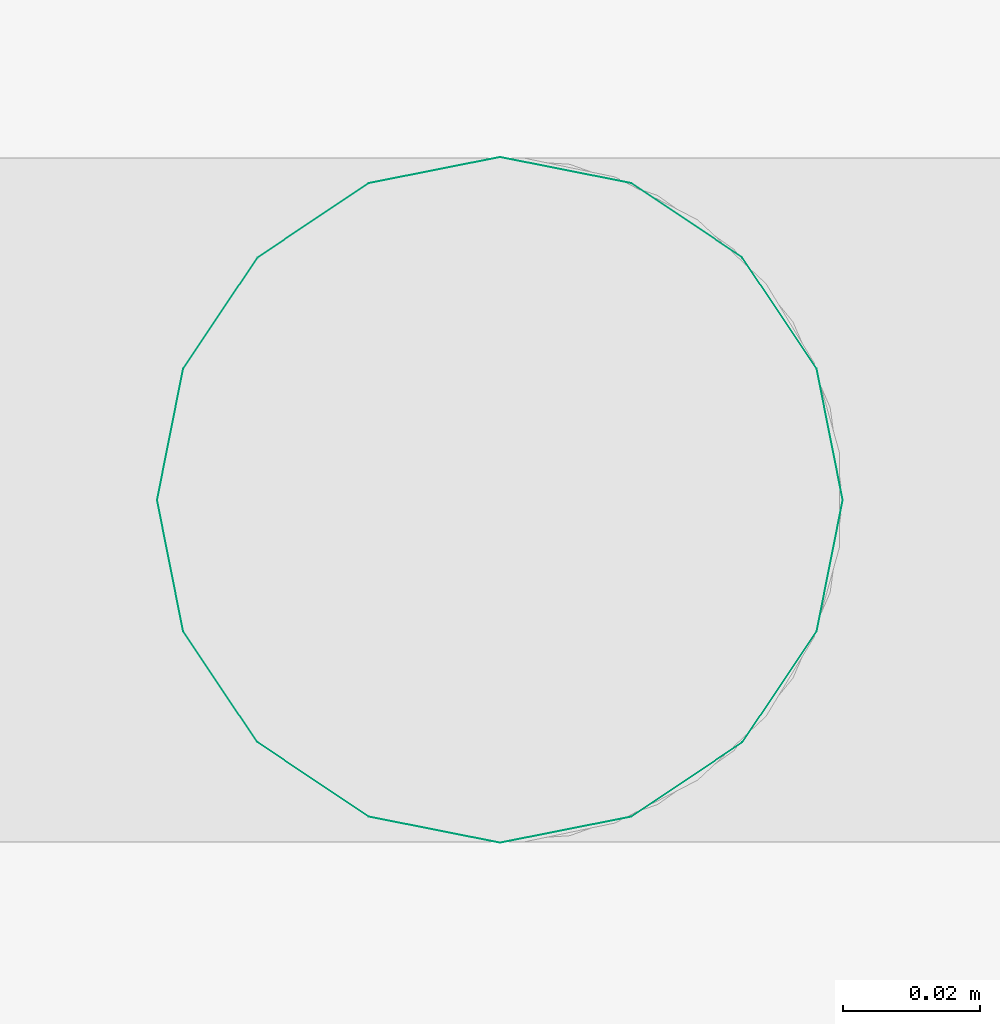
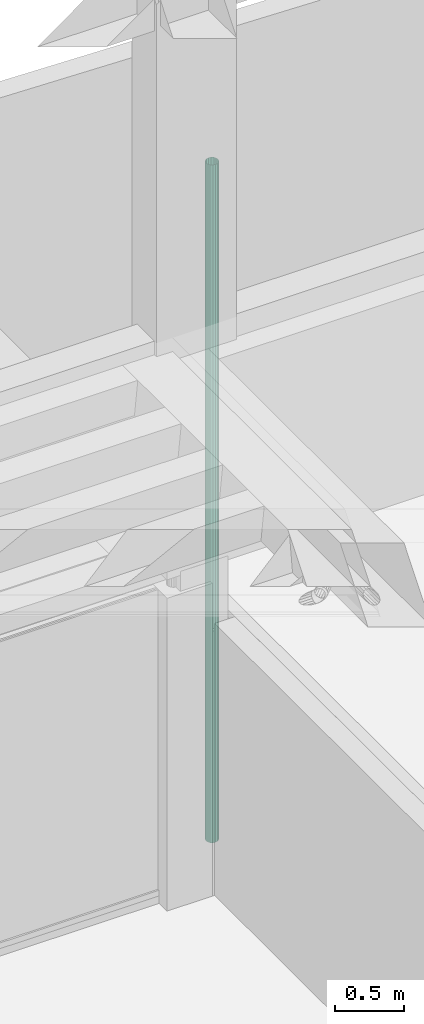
# One storey, part 57 of 108: 1 flow segment.
"""IFC2X3 building model written with IfcOpenShell, lengths in metres."""

from ifc_helpers import new_model, entity, si_unit, converted_unit, derived_unit, money_unit, direction, frame, origin_with_axes, place, context, subcontext, project, spatial, faceted_brep, material, type_object, element, save


model = new_model("IFC2X3")

# Units and contexts
model_context = context("Model", 3, precision=1e-05, world=origin_with_axes(), true_north=direction((0.0, 1.0)))
body_context = subcontext(model_context, "Body", "Model", "MODEL_VIEW", scale=1.0)
ifc_project = project(units=[si_unit("LENGTHUNIT", "METRE"), si_unit("AREAUNIT", "SQUARE_METRE"), si_unit("VOLUMEUNIT", "CUBIC_METRE"), si_unit("ABSORBEDDOSEUNIT", "GRAY"), si_unit("AMOUNTOFSUBSTANCEUNIT", "MOLE"), si_unit("DOSEEQUIVALENTUNIT", "SIEVERT"), si_unit("ELECTRICCAPACITANCEUNIT", "FARAD"), si_unit("ELECTRICCHARGEUNIT", "COULOMB"), si_unit("ELECTRICCONDUCTANCEUNIT", "SIEMENS"), si_unit("ELECTRICCURRENTUNIT", "AMPERE"), si_unit("ELECTRICRESISTANCEUNIT", "OHM"), si_unit("ELECTRICVOLTAGEUNIT", "VOLT"), si_unit("ENERGYUNIT", "JOULE"), si_unit("FORCEUNIT", "NEWTON"), si_unit("FREQUENCYUNIT", "HERTZ"), si_unit("ILLUMINANCEUNIT", "LUX"), si_unit("INDUCTANCEUNIT", "HENRY"), si_unit("LUMINOUSFLUXUNIT", "LUMEN"), si_unit("LUMINOUSINTENSITYUNIT", "CANDELA"), si_unit("MAGNETICFLUXDENSITYUNIT", "TESLA"), si_unit("MAGNETICFLUXUNIT", "WEBER"), si_unit("MASSUNIT", "GRAM"), converted_unit("PLANEANGLEUNIT", "degree", entity("IfcReal", 0.0174532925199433), si_unit("PLANEANGLEUNIT", "RADIAN"), dimensions=[0, 0, 0, 0, 0, 0, 0]), si_unit("POWERUNIT", "WATT"), si_unit("PRESSUREUNIT", "PASCAL"), si_unit("RADIOACTIVITYUNIT", "BECQUEREL"), si_unit("SOLIDANGLEUNIT", "STERADIAN"), si_unit("THERMODYNAMICTEMPERATUREUNIT", "KELVIN"), si_unit("TIMEUNIT", "SECOND"), derived_unit("ACCELERATIONUNIT", [(si_unit("LENGTHUNIT", "METRE"), 1), (si_unit("TIMEUNIT", "SECOND"), -2)]), derived_unit("ANGULARVELOCITYUNIT", [(converted_unit("PLANEANGLEUNIT", "degree", entity("IfcReal", 0.0174532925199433), si_unit("PLANEANGLEUNIT", "RADIAN"), dimensions=[0, 0, 0, 0, 0, 0, 0]), 1), (si_unit("TIMEUNIT", "SECOND"), -1)]), derived_unit("CURVATUREUNIT", [(converted_unit("PLANEANGLEUNIT", "degree", entity("IfcReal", 0.0174532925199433), si_unit("PLANEANGLEUNIT", "RADIAN"), dimensions=[0, 0, 0, 0, 0, 0, 0]), 1), (si_unit("LENGTHUNIT", "METRE"), -1)]), derived_unit("DYNAMICVISCOSITYUNIT", [(si_unit("PRESSUREUNIT", "PASCAL"), 1), (si_unit("TIMEUNIT", "SECOND"), 1)]), derived_unit("HEATFLUXDENSITYUNIT", [(si_unit("POWERUNIT", "WATT"), 1), (si_unit("LENGTHUNIT", "METRE"), -2)]), derived_unit("HEATINGVALUEUNIT", [(si_unit("ENERGYUNIT", "JOULE"), 1), (si_unit("MASSUNIT", "GRAM"), -1)]), derived_unit("INTEGERCOUNTRATEUNIT", [(si_unit("TIMEUNIT", "SECOND"), -1)]), derived_unit("IONCONCENTRATIONUNIT", [(si_unit("MASSUNIT", "GRAM"), 1), (si_unit("VOLUMEUNIT", "CUBIC_METRE"), -1)]), derived_unit("ISOTHERMALMOISTURECAPACITYUNIT", [(si_unit("VOLUMEUNIT", "CUBIC_METRE"), 1), (si_unit("MASSUNIT", "GRAM"), -1)]), derived_unit("KINEMATICVISCOSITYUNIT", [(si_unit("AREAUNIT", "SQUARE_METRE"), 1), (si_unit("TIMEUNIT", "SECOND"), -1)]), derived_unit("LINEARFORCEUNIT", [(si_unit("FORCEUNIT", "NEWTON"), 1), (si_unit("LENGTHUNIT", "METRE"), -1)]), derived_unit("LINEARMOMENTUNIT", [(si_unit("FORCEUNIT", "NEWTON"), 1), (si_unit("LENGTHUNIT", "METRE"), -1)]), derived_unit("LINEARSTIFFNESSUNIT", [(si_unit("FORCEUNIT", "NEWTON"), 1), (si_unit("LENGTHUNIT", "METRE"), -1)]), derived_unit("LINEARVELOCITYUNIT", [(si_unit("LENGTHUNIT", "METRE"), 1), (si_unit("TIMEUNIT", "SECOND"), -1)]), derived_unit("LUMINOUSINTENSITYDISTRIBUTIONUNIT", [(si_unit("LUMINOUSINTENSITYUNIT", "CANDELA"), 1), (si_unit("LUMINOUSFLUXUNIT", "LUMEN"), -1)]), derived_unit("MASSDENSITYUNIT", [(si_unit("MASSUNIT", "GRAM"), 1), (si_unit("VOLUMEUNIT", "CUBIC_METRE"), -1)]), derived_unit("MASSFLOWRATEUNIT", [(si_unit("MASSUNIT", "GRAM"), 1), (si_unit("TIMEUNIT", "SECOND"), -1)]), derived_unit("MASSPERLENGTHUNIT", [(si_unit("MASSUNIT", "GRAM"), 1), (si_unit("LENGTHUNIT", "METRE"), -1)]), derived_unit("MODULUSOFELASTICITYUNIT", [(si_unit("FORCEUNIT", "NEWTON"), 1), (si_unit("AREAUNIT", "SQUARE_METRE"), -1)]), derived_unit("MODULUSOFLINEARSUBGRADEREACTIONUNIT", [(si_unit("FORCEUNIT", "NEWTON"), 1), (si_unit("LENGTHUNIT", "METRE"), -2)]), derived_unit("MODULUSOFROTATIONALSUBGRADEREACTIONUNIT", [(si_unit("FORCEUNIT", "NEWTON"), 1), (si_unit("LENGTHUNIT", "METRE"), 1)]), derived_unit("MODULUSOFSUBGRADEREACTIONUNIT", [(si_unit("FORCEUNIT", "NEWTON"), 1), (si_unit("VOLUMEUNIT", "CUBIC_METRE"), -1)]), derived_unit("MOISTUREDIFFUSIVITYUNIT", [(si_unit("VOLUMEUNIT", "CUBIC_METRE"), 1), (si_unit("TIMEUNIT", "SECOND"), -1)]), derived_unit("MOLECULARWEIGHTUNIT", [(si_unit("MASSUNIT", "GRAM"), 1), (si_unit("AMOUNTOFSUBSTANCEUNIT", "MOLE"), -1)]), derived_unit("PLANARFORCEUNIT", [(si_unit("FORCEUNIT", "NEWTON"), 1), (si_unit("LENGTHUNIT", "METRE"), -2)]), derived_unit("ROTATIONALFREQUENCYUNIT", [(si_unit("TIMEUNIT", "SECOND"), -1)]), derived_unit("ROTATIONALMASSUNIT", [(si_unit("MASSUNIT", "GRAM"), 1), (si_unit("LENGTHUNIT", "METRE"), 2)]), derived_unit("ROTATIONALSTIFFNESSUNIT", [(si_unit("FORCEUNIT", "NEWTON"), 1), (si_unit("LENGTHUNIT", "METRE"), 1), (converted_unit("PLANEANGLEUNIT", "degree", entity("IfcReal", 0.0174532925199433), si_unit("PLANEANGLEUNIT", "RADIAN"), dimensions=[0, 0, 0, 0, 0, 0, 0]), -1)]), derived_unit("SECTIONAREAINTEGRALUNIT", [(si_unit("LENGTHUNIT", "METRE"), 5)]), derived_unit("SECTIONMODULUSUNIT", [(si_unit("LENGTHUNIT", "METRE"), 3)]), derived_unit("SHEARMODULUSUNIT", [(si_unit("FORCEUNIT", "NEWTON"), 1), (si_unit("AREAUNIT", "SQUARE_METRE"), -1)]), derived_unit("SOUNDPOWERUNIT", [(si_unit("ENERGYUNIT", "JOULE"), 1), (si_unit("TIMEUNIT", "SECOND"), -1)]), derived_unit("SPECIFICHEATCAPACITYUNIT", [(si_unit("FORCEUNIT", "NEWTON"), 1), (si_unit("MASSUNIT", "GRAM"), -1), (si_unit("THERMODYNAMICTEMPERATUREUNIT", "KELVIN"), -1)]), derived_unit("TEMPERATUREGRADIENTUNIT", [(si_unit("THERMODYNAMICTEMPERATUREUNIT", "KELVIN"), 1), (si_unit("LENGTHUNIT", "METRE"), -1)]), derived_unit("THERMALADMITTANCEUNIT", [(si_unit("POWERUNIT", "WATT"), 1), (si_unit("AREAUNIT", "SQUARE_METRE"), -1), (si_unit("THERMODYNAMICTEMPERATUREUNIT", "KELVIN"), -1)]), derived_unit("THERMALCONDUCTANCEUNIT", [(si_unit("POWERUNIT", "WATT"), 1), (si_unit("LENGTHUNIT", "METRE"), -1), (si_unit("THERMODYNAMICTEMPERATUREUNIT", "KELVIN"), -1)]), derived_unit("THERMALEXPANSIONCOEFFICIENTUNIT", [(si_unit("THERMODYNAMICTEMPERATUREUNIT", "KELVIN"), -1)]), derived_unit("THERMALRESISTANCEUNIT", [(si_unit("AREAUNIT", "SQUARE_METRE"), 1), (si_unit("POWERUNIT", "WATT"), -1)]), derived_unit("THERMALTRANSMITTANCEUNIT", [(si_unit("POWERUNIT", "WATT"), 1), (si_unit("AREAUNIT", "SQUARE_METRE"), -1), (si_unit("THERMODYNAMICTEMPERATUREUNIT", "KELVIN"), -1)]), derived_unit("TORQUEUNIT", [(si_unit("FORCEUNIT", "NEWTON"), 1), (si_unit("LENGTHUNIT", "METRE"), 1)]), derived_unit("VAPORPERMEABILITYUNIT", [(si_unit("MASSUNIT", "GRAM"), 1), (si_unit("TIMEUNIT", "SECOND"), -1)]), derived_unit("VOLUMETRICFLOWRATEUNIT", [(si_unit("VOLUMEUNIT", "CUBIC_METRE"), 1), (si_unit("TIMEUNIT", "SECOND"), -1)]), derived_unit("WARPINGCONSTANTUNIT", [(si_unit("LENGTHUNIT", "METRE"), 6)]), derived_unit("WARPINGMOMENTUNIT", [(si_unit("FORCEUNIT", "NEWTON"), 1), (si_unit("LENGTHUNIT", "METRE"), 2)]), money_unit("GBP")], contexts=[model_context])

# Site, building, storey, space
site_placement = place(None, origin_with_axes())
site = spatial("IfcSite", under=ifc_project, at=site_placement, Name="Site", CompositionType="ELEMENT")
building_placement = place(site_placement, origin_with_axes())
building = spatial("IfcBuilding", under=site, at=building_placement, Name="Building01", CompositionType="ELEMENT")
storey_placement = place(building_placement, origin_with_axes())
storey = spatial("IfcBuildingStorey", under=building, at=storey_placement, Name="GF", CompositionType="ELEMENT", Elevation=0.0)
space_placement = place(storey_placement, frame((12.311434, 15.867846, 0.0), z_axis=(0.0, 0.0, 1.0), x_axis=(0.0, 1.0, 0.0)))
space = spatial("IfcSpace", under=storey, at=space_placement, Name="1", CompositionType="ELEMENT", InteriorOrExteriorSpace="NOTDEFINED")

# Flow segment
ifc_material = material(Name="M_BSUK_ColdWater")
pipe_segment_type = type_object("IfcPipeSegmentType", Name="M-BmpStraightpipe-DefaultPipe", PredefinedType="RIGIDSEGMENT")
flow_segment_placement = place(storey_placement, frame((9.543038, 14.95, 6.142063), z_axis=(0.0, 1.0, 0.0), x_axis=(0.0, 0.0, -1.0)))
element("IfcFlowSegment", 1, at=flow_segment_placement, inside=space, type_object=pipe_segment_type, material=ifc_material, Name="M-BmpStraightpipe-DefaultPipe", ObjectType="M-BmpStraightpipe-DefaultPipe", context=body_context, shape_type="Brep", body=[
    faceted_brep([(5.986894, 0.0, -0.05), (0.0, 0.0, -0.05), (0.0, 0.019134, -0.046194), (5.986894, 0.019134, -0.046194), (0.0, 0.035355, -0.035355), (5.986894, 0.035355, -0.035355), (0.0, 0.046194, -0.019134), (5.986894, 0.046194, -0.019134), (0.0, 0.05, 0.0), (5.986894, 0.05, 0.0), (0.0, 0.046194, 0.019134), (5.986894, 0.046194, 0.019134), (0.0, 0.035355, 0.035355), (5.986894, 0.035355, 0.035355), (0.0, 0.019134, 0.046194), (5.986894, 0.019134, 0.046194), (0.0, 0.0, 0.05), (5.986894, 0.0, 0.05), (0.0, -0.019134, 0.046194), (5.986894, -0.019134, 0.046194), (0.0, -0.035355, 0.035355), (5.986894, -0.035355, 0.035355), (0.0, -0.046194, 0.019134), (5.986894, -0.046194, 0.019134), (0.0, -0.05, 0.0), (5.986894, -0.05, 0.0), (0.0, -0.046194, -0.019134), (5.986894, -0.046194, -0.019134), (0.0, -0.035355, -0.035355), (5.986894, -0.035355, -0.035355), (0.0, -0.019134, -0.046194), (5.986894, -0.019134, -0.046194)], [[[0, 1, 2, 3]], [[3, 2, 4, 5]], [[5, 4, 6, 7]], [[7, 6, 8, 9]], [[9, 8, 10, 11]], [[11, 10, 12, 13]], [[13, 12, 14, 15]], [[15, 14, 16, 17]], [[17, 16, 18, 19]], [[19, 18, 20, 21]], [[21, 20, 22, 23]], [[23, 22, 24, 25]], [[25, 24, 26, 27]], [[27, 26, 28, 29]], [[29, 28, 30, 31]], [[31, 30, 1, 0]]]),
])

save(model, "model.ifc")
